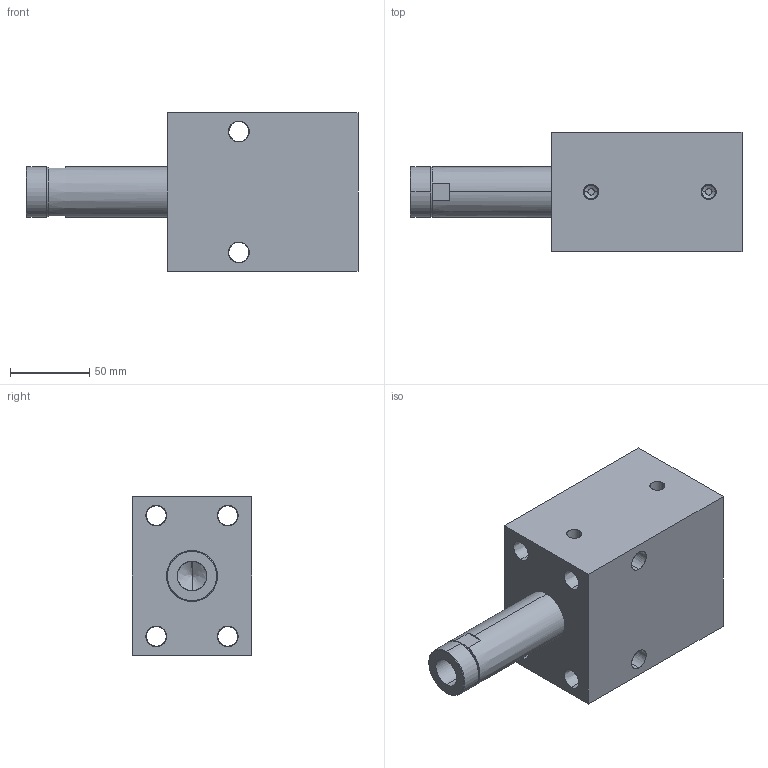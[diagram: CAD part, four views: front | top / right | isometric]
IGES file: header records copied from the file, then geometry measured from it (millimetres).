
Start section: SolidWorks IGES file using analytic representation for surfaces
Global section: file name: C:\Documents and Settings\rajib\Desktop\Rajib\BLOCK CYLINDER HYDRAULIC\0501-0506\IGS 0501-0508\0506.IGS; native system: SolidWorks 2007; preprocessor: SolidWorks 2007; author: rajib; date: 110121.103857; units: millimetre
Bounding box: 209 x 75 x 100 mm (x, y, z)
Surface area: 94353.2 mm2 (no closed solid volume)
Topology: 0 solids, 0 shells, 80 faces, 1872 edges, 1870 vertices
Faces by surface type: revolution 58, bspline 22
